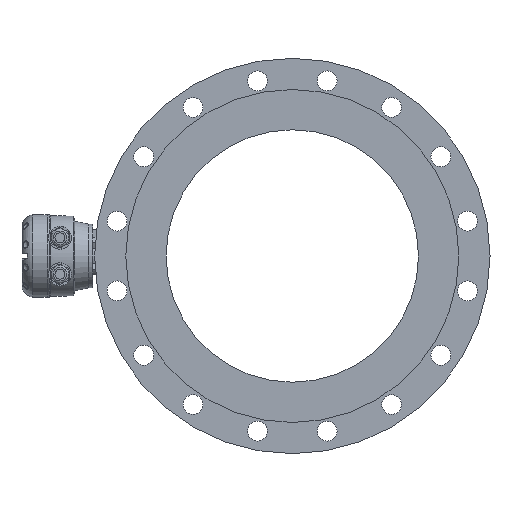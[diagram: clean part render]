
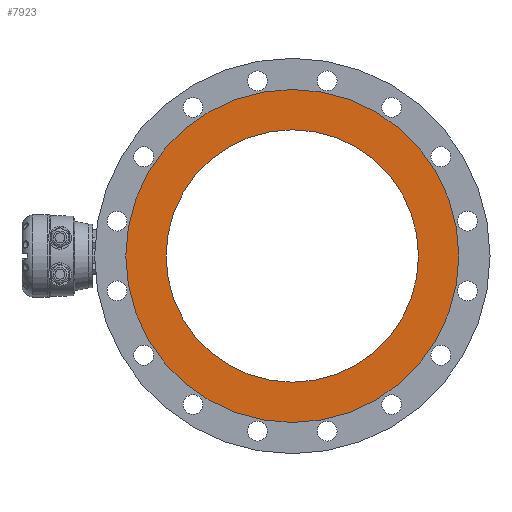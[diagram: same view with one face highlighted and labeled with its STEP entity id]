
A CAD part, left-side view. The second image highlights one B-rep face of the part: STEP entity #7923.
In plain terms, the highlighted planar face has unit normal (-1, 0, 0).
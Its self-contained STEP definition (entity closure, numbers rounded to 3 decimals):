
#868 = CARTESIAN_POINT ( 'NONE',  ( -244.805, -256.017, -10.543 ) ) ;
#877 = DIRECTION ( 'NONE',  ( -1., 0., 0. ) ) ;
#878 = DIRECTION ( 'NONE',  ( 0., 0., 1. ) ) ;
#2084 = PLANE ( 'NONE',  #14299 ) ;
#2136 = CARTESIAN_POINT ( 'NONE',  ( -244.805, -90.017, -10.543 ) ) ;
#2145 = DIRECTION ( 'NONE',  ( -1., 0., 0. ) ) ;
#2146 = DIRECTION ( 'NONE',  ( 0., 0., 1. ) ) ;
#4341 = EDGE_LOOP ( 'NONE', ( #5674 ) ) ;
#4745 = EDGE_LOOP ( 'NONE', ( #5673 ) ) ;
#5673 = ORIENTED_EDGE ( 'NONE', *, *, #13907, .T. ) ;
#5674 = ORIENTED_EDGE ( 'NONE', *, *, #13575, .T. ) ;
#7228 = CARTESIAN_POINT ( 'NONE',  ( -244.805, -256.017, -10.543 ) ) ;
#7232 = DIRECTION ( 'NONE',  ( 1., 0., 0. ) ) ;
#7233 = DIRECTION ( 'NONE',  ( 0., 0., -1. ) ) ;
#7508 = VERTEX_POINT ( 'NONE', #7509 ) ;
#7509 = CARTESIAN_POINT ( 'NONE',  ( -244.805, -256.017, 208.457 ) ) ;
#7636 = VERTEX_POINT ( 'NONE', #7637 ) ;
#7637 = CARTESIAN_POINT ( 'NONE',  ( -244.805, -256.017, -176.543 ) ) ;
#7923 = ADVANCED_FACE ( 'NONE', ( #8303, #8302 ), #2084, .T. ) ;
#8302 = FACE_OUTER_BOUND ( 'NONE', #4341, .T. ) ;
#8303 = FACE_BOUND ( 'NONE', #4745, .T. ) ;
#8596 = CIRCLE ( 'NONE', #14403, 219. ) ;
#9485 = CIRCLE ( 'NONE', #14480, 166. ) ;
#13575 = EDGE_CURVE ( 'NONE', #7508, #7508, #8596, .T. ) ;
#13907 = EDGE_CURVE ( 'NONE', #7636, #7636, #9485, .T. ) ;
#14299 = AXIS2_PLACEMENT_3D ( 'NONE', #2136, #2145, #2146 ) ;
#14403 = AXIS2_PLACEMENT_3D ( 'NONE', #868, #877, #878 ) ;
#14480 = AXIS2_PLACEMENT_3D ( 'NONE', #7228, #7232, #7233 ) ;
